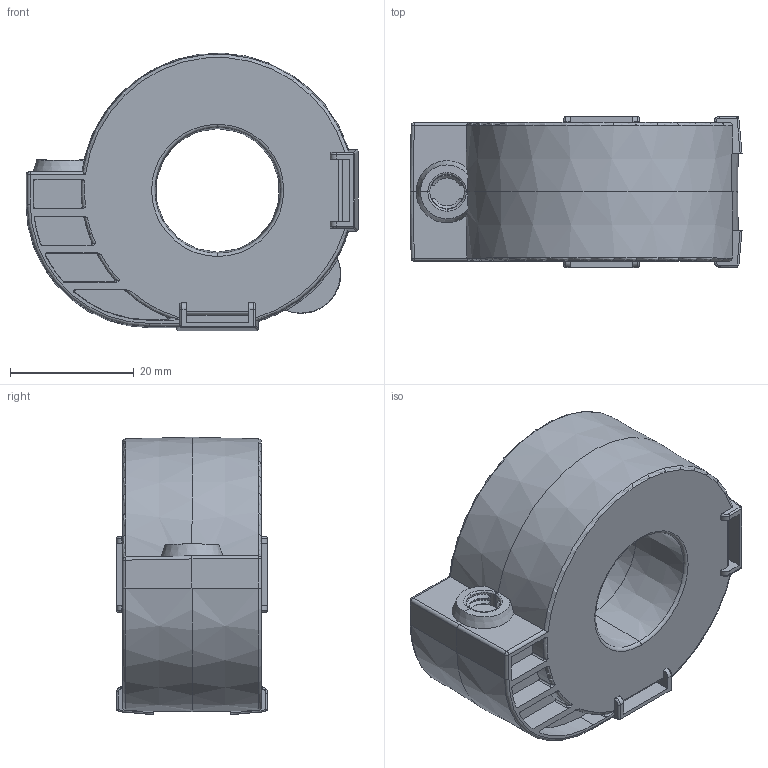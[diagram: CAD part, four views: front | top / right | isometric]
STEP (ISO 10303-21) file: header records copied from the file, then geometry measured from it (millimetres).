
FILE_DESCRIPTION((''),'2;1');
FILE_NAME('0000002562_ASM','2024-09-19T08:33:06',('lesquembri'),(''),'CREO PARAMETRIC BY PTC INC, 2018260','CREO PARAMETRIC BY PTC INC, 2018260','');
FILE_SCHEMA(('AUTOMOTIVE_DESIGN { 1 0 10303 214 1 1 1 1 }'));
Length unit declared in the file: millimetre
Products named in the file (1): 0000002562_ASM
Bounding box: 53.7 x 24.4 x 44.89 mm (x, y, z)
Volume: 30313.6 mm3; surface area: 12570.3 mm2
Topology: 1 solids, 5 shells, 841 faces, 2250 edges, 1466 vertices
Faces by surface type: plane 634, cylinder 91, cone 56, bspline 32, torus 22, sphere 6
Entity records: 30609 total; most frequent: CARTESIAN_POINT 8322, ORIENTED_EDGE 4488, DIRECTION 3794, EDGE_CURVE 2244, VECTOR 1710, LINE 1710, COLOUR_RGB 1575, VERTEX_POINT 1466
